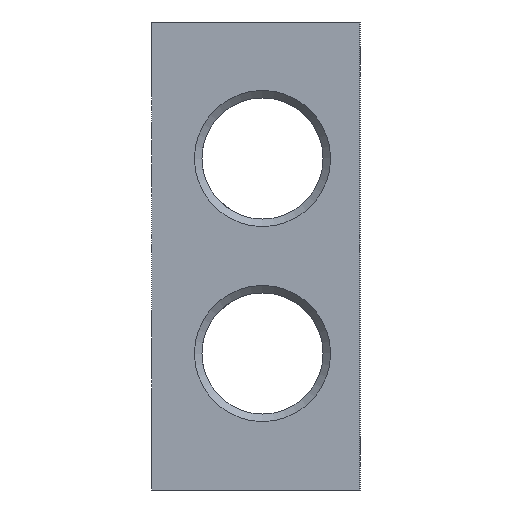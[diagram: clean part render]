
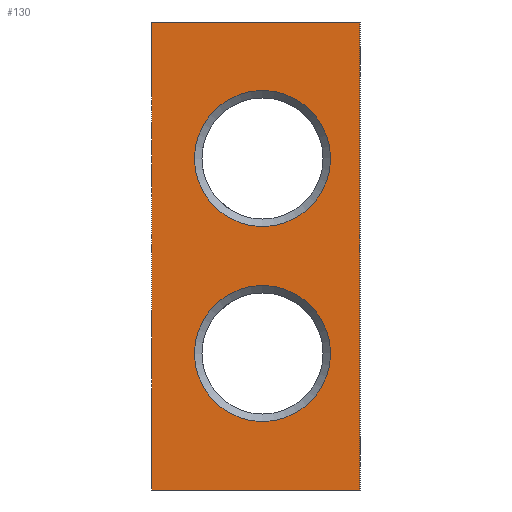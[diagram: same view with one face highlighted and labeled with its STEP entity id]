
A CAD part, left-side view. The second image highlights one B-rep face of the part: STEP entity #130.
In plain terms, the highlighted planar face has unit normal (-1, 0, 0).
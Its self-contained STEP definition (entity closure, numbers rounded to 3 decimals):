
#130 = ADVANCED_FACE( '', ( #333, #334, #335 ), #336, .F. );
#333 = FACE_BOUND( '', #563, .T. );
#334 = FACE_BOUND( '', #564, .T. );
#335 = FACE_OUTER_BOUND( '', #565, .T. );
#336 = PLANE( '', #566 );
#563 = EDGE_LOOP( '', ( #915 ) );
#564 = EDGE_LOOP( '', ( #916 ) );
#565 = EDGE_LOOP( '', ( #917, #918, #919, #920 ) );
#566 = AXIS2_PLACEMENT_3D( '', #921, #922, #923 );
#915 = ORIENTED_EDGE( '', *, *, #1019, .T. );
#916 = ORIENTED_EDGE( '', *, *, #1061, .T. );
#917 = ORIENTED_EDGE( '', *, *, #1059, .F. );
#918 = ORIENTED_EDGE( '', *, *, #1049, .F. );
#919 = ORIENTED_EDGE( '', *, *, #1057, .F. );
#920 = ORIENTED_EDGE( '', *, *, #1053, .F. );
#921 = CARTESIAN_POINT( '', ( 0., 0., 0. ) );
#922 = DIRECTION( '', ( 1., 0., 0. ) );
#923 = DIRECTION( '', ( 0., 0., -1. ) );
#1019 = EDGE_CURVE( '', #1154, #1154, #1155, .T. );
#1049 = EDGE_CURVE( '', #1214, #1215, #1216, .T. );
#1053 = EDGE_CURVE( '', #1222, #1223, #1224, .T. );
#1057 = EDGE_CURVE( '', #1223, #1214, #1230, .T. );
#1059 = EDGE_CURVE( '', #1215, #1222, #1232, .T. );
#1061 = EDGE_CURVE( '', #1234, #1234, #1235, .T. );
#1154 = VERTEX_POINT( '', #1415 );
#1155 = CIRCLE( '', #1416, 10.478 );
#1214 = VERTEX_POINT( '', #2479 );
#1215 = VERTEX_POINT( '', #2480 );
#1216 = LINE( '', #2481, #2482 );
#1222 = VERTEX_POINT( '', #2491 );
#1223 = VERTEX_POINT( '', #2492 );
#1224 = LINE( '', #2493, #2494 );
#1230 = LINE( '', #2503, #2504 );
#1232 = LINE( '', #2507, #2508 );
#1234 = VERTEX_POINT( '', #2511 );
#1235 = CIRCLE( '', #2512, 10.478 );
#1415 = CARTESIAN_POINT( '', ( 0., -17., -25.478 ) );
#1416 = AXIS2_PLACEMENT_3D( '', #2894, #2895, #2896 );
#2479 = CARTESIAN_POINT( '', ( 0., 0., -36. ) );
#2480 = CARTESIAN_POINT( '', ( 0., 0., 36. ) );
#2481 = CARTESIAN_POINT( '', ( 0., 0., -36. ) );
#2482 = VECTOR( '', #2948, 1000. );
#2491 = CARTESIAN_POINT( '', ( 0., -32., 36. ) );
#2492 = CARTESIAN_POINT( '', ( 0., -32., -36. ) );
#2493 = CARTESIAN_POINT( '', ( 0., -32., 36. ) );
#2494 = VECTOR( '', #2952, 1000. );
#2503 = CARTESIAN_POINT( '', ( 0., -32., -36. ) );
#2504 = VECTOR( '', #2956, 1000. );
#2507 = CARTESIAN_POINT( '', ( 0., 0., 36. ) );
#2508 = VECTOR( '', #2958, 1000. );
#2511 = CARTESIAN_POINT( '', ( 0., -17., 4.523 ) );
#2512 = AXIS2_PLACEMENT_3D( '', #2960, #2961, #2962 );
#2894 = CARTESIAN_POINT( '', ( 0., -17., -15. ) );
#2895 = DIRECTION( '', ( 1., 0., 0. ) );
#2896 = DIRECTION( '', ( 0., 0., -1. ) );
#2948 = DIRECTION( '', ( 0., 0., 1. ) );
#2952 = DIRECTION( '', ( 0., 0., -1. ) );
#2956 = DIRECTION( '', ( 0., 1., 0. ) );
#2958 = DIRECTION( '', ( 0., -1., 0. ) );
#2960 = CARTESIAN_POINT( '', ( 0., -17., 15. ) );
#2961 = DIRECTION( '', ( 1., 0., 0. ) );
#2962 = DIRECTION( '', ( 0., 0., -1. ) );
